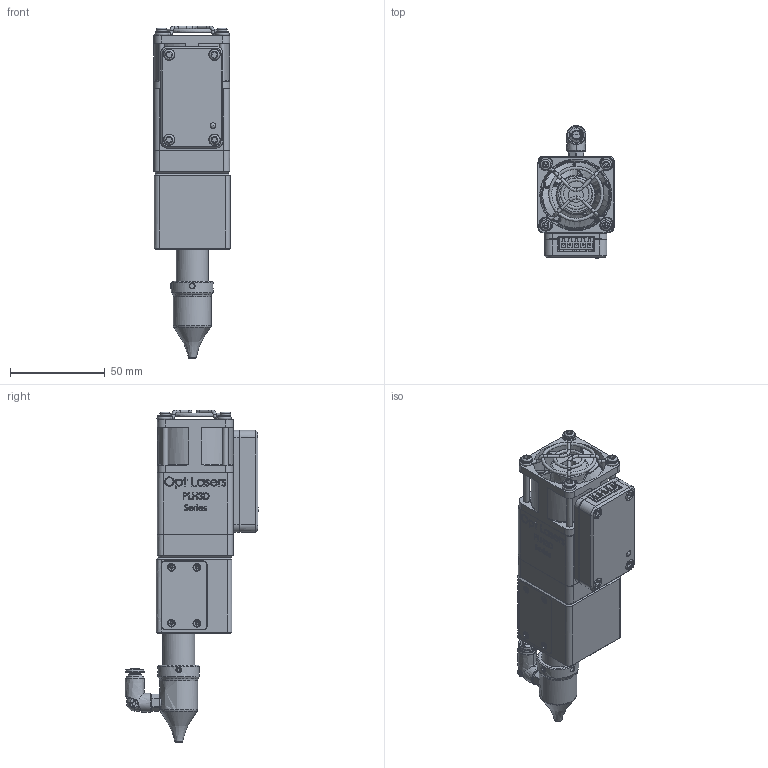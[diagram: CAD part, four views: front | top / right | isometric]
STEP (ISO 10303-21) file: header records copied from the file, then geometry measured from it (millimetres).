
FILE_DESCRIPTION( ('This file contains a STEP AP42 implementation' ,'as created by ZW3D STEP Interface translator.') ,'2;1' );
FILE_NAME( 'XT-50-I.stp' ,'24 517.1018 2', (''), ('ZWCAD Software Co.'), 'Version 1.0', 'ZW3D to STEP translator', '' );
FILE_SCHEMA(('AUTOMOTIVE_DESIGN'));
Length unit declared in the file: millimetre
Products named in the file (1): 0
Bounding box: 40.23 x 70.5 x 175.65 mm (x, y, z)
Volume: 169449.6 mm3; surface area: 73886.8 mm2
Topology: 44 solids, 62 shells, 2246 faces, 5625 edges, 3596 vertices
Faces by surface type: bspline 2246
Entity records: 111116 total; most frequent: CARTESIAN_POINT 75827, ORIENTED_EDGE 11207, EDGE_CURVE 5608, B_SPLINE_CURVE_WITH_KNOTS 3836, VERTEX_POINT 3594, EDGE_LOOP 2513, FACE_OUTER_BOUND 2246, ADVANCED_FACE 2246
